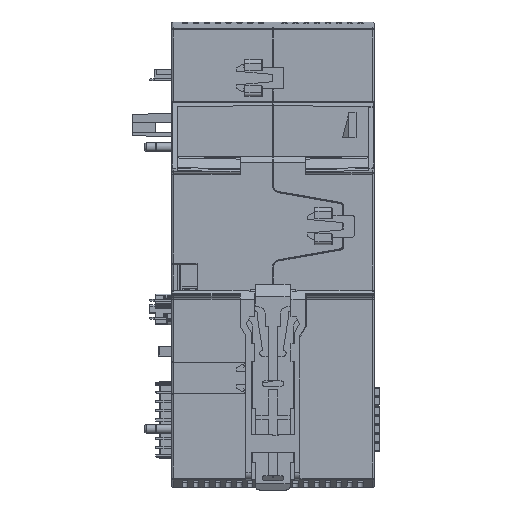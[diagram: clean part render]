
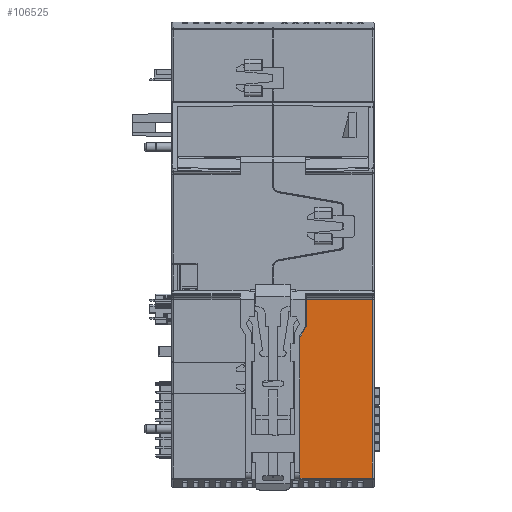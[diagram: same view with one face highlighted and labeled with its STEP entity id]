
A CAD part, front view. The second image highlights one B-rep face of the part: STEP entity #106525.
In plain terms, the highlighted planar face has unit normal (0, -1, 0).
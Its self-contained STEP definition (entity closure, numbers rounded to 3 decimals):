
#39708=DIRECTION('',(0.,0.,1.));
#39709=VECTOR('',#39708,7.554);
#39710=CARTESIAN_POINT('',(49.9,0.,-27.754));
#39711=LINE('',#39710,#39709);
#39715=DIRECTION('',(1.,0.,0.));
#39716=VECTOR('',#39715,18.3);
#39717=CARTESIAN_POINT('',(49.9,0.,-20.2));
#39718=LINE('',#39717,#39716);
#39722=DIRECTION('',(0.,0.,-1.));
#39723=VECTOR('',#39722,49.5);
#39724=CARTESIAN_POINT('',(68.2,0.,-20.2));
#39725=LINE('',#39724,#39723);
#39729=DIRECTION('',(-1.,0.,0.));
#39730=VECTOR('',#39729,20.);
#39731=CARTESIAN_POINT('',(68.2,0.,-69.7));
#39732=LINE('',#39731,#39730);
#39736=DIRECTION('',(0.,0.,-1.));
#39737=VECTOR('',#39736,39.002);
#39738=CARTESIAN_POINT('',(48.2,0.,-30.698));
#39739=LINE('',#39738,#39737);
#39743=DIRECTION('',(0.5,0.,0.866));
#39744=VECTOR('',#39743,3.4);
#39745=CARTESIAN_POINT('',(48.2,0.,-30.698));
#39746=LINE('',#39745,#39744);
#70869=CARTESIAN_POINT('',(48.2,0.,-69.7));
#70871=VERTEX_POINT('',#70869);
#70886=CARTESIAN_POINT('',(68.2,0.,-69.7));
#70887=VERTEX_POINT('',#70886);
#70890=CARTESIAN_POINT('',(68.2,0.,-20.2));
#70891=VERTEX_POINT('',#70890);
#70976=CARTESIAN_POINT('',(49.9,0.,-20.2));
#70977=VERTEX_POINT('',#70976);
#70982=CARTESIAN_POINT('',(49.9,0.,-27.754));
#70983=VERTEX_POINT('',#70982);
#70986=CARTESIAN_POINT('',(48.2,0.,-30.698));
#70987=VERTEX_POINT('',#70986);
#106511=CARTESIAN_POINT('',(40.7,0.,56.5));
#106512=DIRECTION('',(0.,-1.,0.));
#106513=DIRECTION('',(0.,0.,-1.));
#106514=AXIS2_PLACEMENT_3D('',#106511,#106512,#106513);
#106515=PLANE('',#106514);
#106516=ORIENTED_EDGE('',*,*,#105918,.T.);
#106518=ORIENTED_EDGE('',*,*,#106517,.T.);
#106519=ORIENTED_EDGE('',*,*,#106498,.T.);
#106520=ORIENTED_EDGE('',*,*,#105829,.T.);
#106521=ORIENTED_EDGE('',*,*,#105850,.F.);
#106522=ORIENTED_EDGE('',*,*,#105896,.T.);
#106523=EDGE_LOOP('',(#106516,#106518,#106519,#106520,#106521,#106522));
#106524=FACE_OUTER_BOUND('',#106523,.F.);
#105829=EDGE_CURVE('',#70887,#70871,#39732,.T.);
#105850=EDGE_CURVE('',#70987,#70871,#39739,.T.);
#105896=EDGE_CURVE('',#70987,#70983,#39746,.T.);
#105918=EDGE_CURVE('',#70983,#70977,#39711,.T.);
#106498=EDGE_CURVE('',#70891,#70887,#39725,.T.);
#106517=EDGE_CURVE('',#70977,#70891,#39718,.T.);
#106525=ADVANCED_FACE('',(#106524),#106515,.T.);
